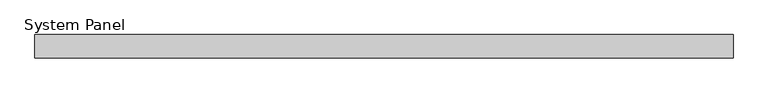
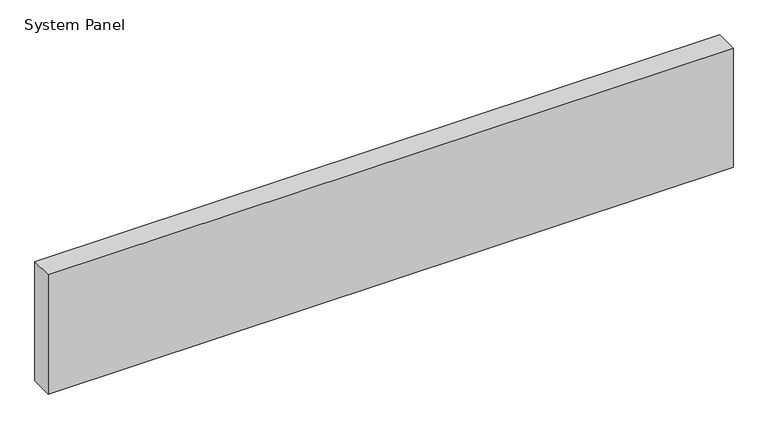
"""IFC4 building model written with IfcOpenShell, lengths in millimetres: plate geometry, System Panel : MetecnoPanel 200mm Horizontal - Plain Astro - PIR."""

from ifc_helpers import new_model, si_unit, origin, origin_with_axes, place, context, project, spatial, polyline, outline, extrude, source, transform, mapped, element, save


def system_panel_9c52725a(model_context):
    return source(origin(), model_context, "Body", "SweptSolid", [
        extrude(outline(polyline([(2990.0, -200.0), (-2990.0, -200.0), (-2990.0, 0.0), (2990.0, 0.0), (2990.0, -200.0)])), origin_with_axes(), (0.0, 0.0, 1.0), 1100.0),
    ])


if __name__ == "__main__":
    model = new_model("IFC4")
    model_context = context("Model", 3, world=origin())
    ifc_project = project(units=[si_unit("LENGTHUNIT", "METRE", prefix="MILLI")], contexts=[model_context])
    site = spatial("IfcSite", under=ifc_project)
    building = spatial("IfcBuilding", under=site)
    placement = place(None, origin())
    system_panel_shape = system_panel_9c52725a(model_context)
    element("IfcPlate", 1, ObjectType="System Panel : MetecnoPanel 200mm Horizontal - Plain Astro - PIR", at=placement, inside=building, context=model_context, shape_type="MappedRepresentation", body=[
        mapped(system_panel_shape, transform((0.0, 0.0, 0.0), x_axis=(1.0, 0.0, 0.0), y_axis=(0.0, 1.0, 0.0), z_axis=(0.0, 0.0, 1.0))),
    ])
    save(model, "model.ifc")
